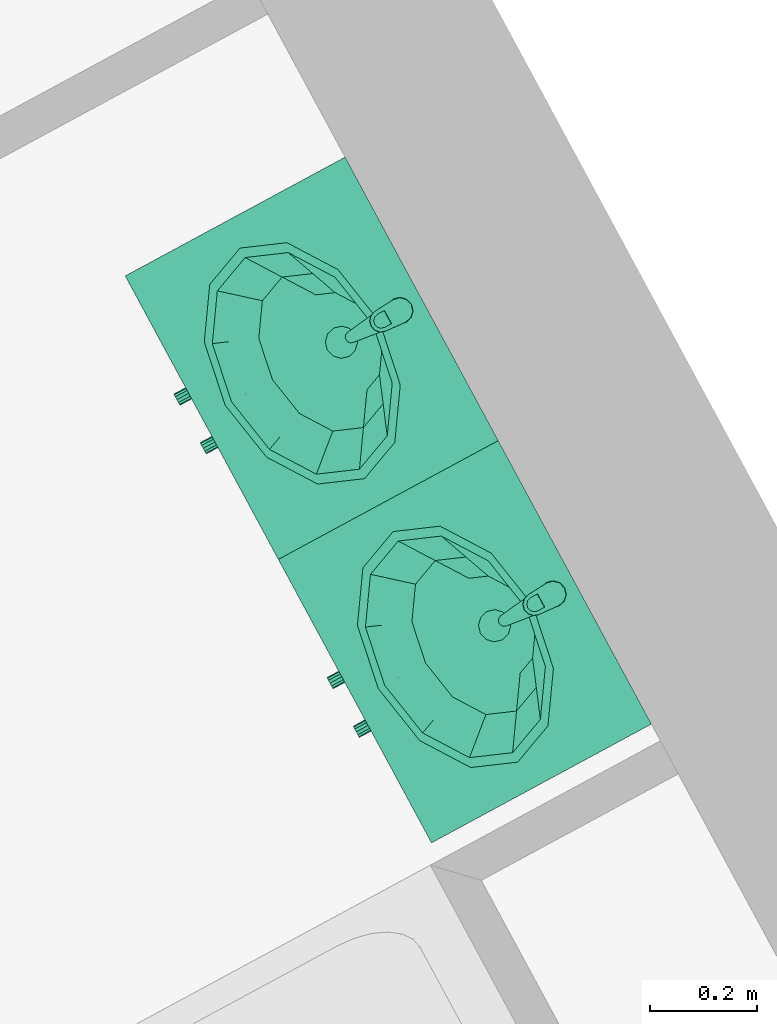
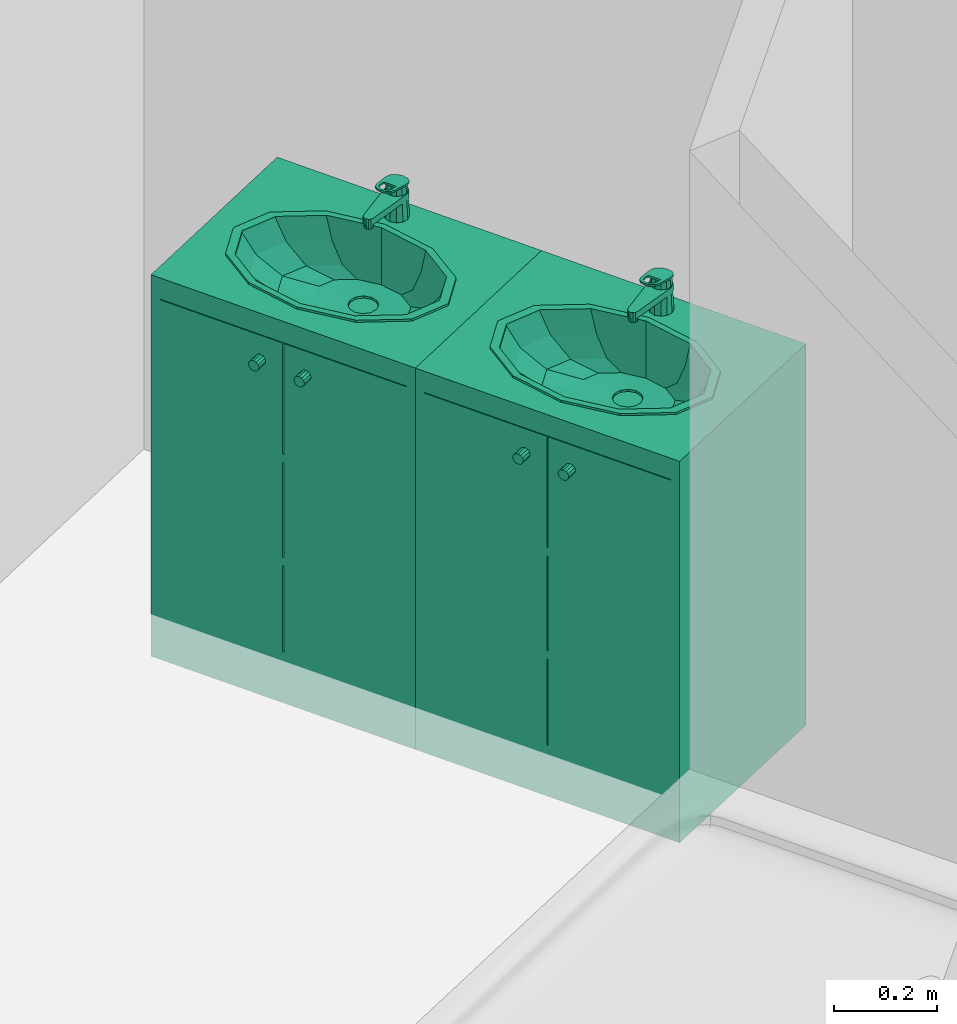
# One storey, part 92 of 121: 2 distribution elements.
"""IFC2X3 building model written with IfcOpenShell, lengths in metres."""

from ifc_helpers import new_model, entity, si_unit, converted_unit, derived_unit, money_unit, direction, frame, origin_with_axes, place, context, subcontext, project, spatial, open_shell, faceted_brep, surface_model, source, transform, mapped, type_object, element, save


model = new_model("IFC2X3")

# Units and contexts
model_context = context("Model", 3, precision=1e-05, world=origin_with_axes(), true_north=direction((0.0, 1.0)))
body_context = subcontext(model_context, "Body", "Model", "MODEL_VIEW")
ifc_project = project(units=[si_unit("LENGTHUNIT", "METRE"), si_unit("AREAUNIT", "SQUARE_METRE"), si_unit("VOLUMEUNIT", "CUBIC_METRE"), converted_unit("PLANEANGLEUNIT", "DEGREE", entity("IfcPlaneAngleMeasure", 0.0174532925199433), si_unit("PLANEANGLEUNIT", "RADIAN"), dimensions=[0, 0, 0, 0, 0, 0, 0]), money_unit("CHF"), converted_unit("TIMEUNIT", "Year", entity("IfcTimeMeasure", 31557600.0), si_unit("TIMEUNIT", "SECOND"), dimensions=[0, 0, 1, 0, 0, 0, 0]), si_unit("MASSUNIT", "GRAM", prefix="KILO"), si_unit("THERMODYNAMICTEMPERATUREUNIT", "DEGREE_CELSIUS"), si_unit("LUMINOUSINTENSITYUNIT", "LUMEN"), si_unit("ENERGYUNIT", "JOULE", prefix="MEGA"), derived_unit("THERMALCONDUCTANCEUNIT", [(si_unit("POWERUNIT", "WATT"), 1), (si_unit("LENGTHUNIT", "METRE"), -1), (si_unit("THERMODYNAMICTEMPERATUREUNIT", "KELVIN"), -1)]), derived_unit("SPECIFICHEATCAPACITYUNIT", [(si_unit("ENERGYUNIT", "JOULE"), 1), (si_unit("MASSUNIT", "GRAM", prefix="KILO"), -1), (si_unit("THERMODYNAMICTEMPERATUREUNIT", "KELVIN"), -1)]), derived_unit("MASSDENSITYUNIT", [(si_unit("MASSUNIT", "GRAM", prefix="KILO"), 1), (si_unit("VOLUMEUNIT", "CUBIC_METRE"), -1)])], contexts=[model_context])

# Site, building, storey
site_placement = place(None, origin_with_axes())
site = spatial("IfcSite", under=ifc_project, at=site_placement, Name="Site", CompositionType="ELEMENT")
building_placement = place(site_placement, origin_with_axes())
building = spatial("IfcBuilding", under=site, at=building_placement, Name="Bâtiment", CompositionType="ELEMENT")
storey_placement = place(building_placement, frame((0.0, 0.0, 2.75), z_axis=(0.0, 0.0, 1.0), x_axis=(1.0, 0.0, 0.0)))
storey = spatial("IfcBuildingStorey", under=building, at=storey_placement, Name="Etage 1", CompositionType="ELEMENT", Elevation=2.75)

# Distribution elements
distribution_element_type = type_object("IfcDistributionElementType", Name="Lavabo sur meuble 27")
shared_shape = source(origin_with_axes(), body_context, "Body", "SurfaceModel", [
    faceted_brep([(0.0, 0.0, 0.0), (0.6, 0.0, 0.0), (0.6, 0.0, 0.1), (0.0, 0.0, 0.1), (0.0, 0.4653441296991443, 0.0), (0.6, 0.4653441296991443, 0.0), (0.6, 0.4653441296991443, 0.1), (0.0, 0.4653441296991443, 0.1)], [[[0, 1, 2, 3]], [[0, 4, 5, 1]], [[1, 5, 6, 2]], [[3, 2, 6, 7]], [[4, 0, 3, 7]], [[5, 4, 7, 6]]]),
    faceted_brep([(0.0, 0.0, 0.1), (0.02, 0.0, 0.1), (0.02, 0.0, 0.12), (0.0, 0.0, 0.12), (0.0, 0.4653441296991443, 0.1), (0.02, 0.4653441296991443, 0.1), (0.58, 0.4653441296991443, 0.1), (0.6, 0.4653441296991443, 0.1), (0.6, 0.0, 0.1), (0.58, 0.0, 0.1), (0.58, 0.0, 0.12), (0.6, 0.0, 0.12), (0.6, 0.4653441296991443, 0.12), (0.58, 0.4653441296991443, 0.12), (0.02, 0.4653441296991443, 0.12), (0.0, 0.4653441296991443, 0.12)], [[[0, 1, 2, 3]], [[0, 4, 5, 6, 7, 8, 9, 1]], [[1, 9, 10, 2]], [[3, 2, 10, 11, 12, 13, 14, 15]], [[4, 0, 3, 15]], [[5, 4, 15, 14]], [[6, 5, 14, 13]], [[7, 6, 13, 12]], [[8, 7, 12, 11]], [[9, 8, 11, 10]]]),
    faceted_brep([(0.0, 0.0, 0.12), (0.02, 0.0, 0.12), (0.02, 0.0, 0.85), (0.0, 0.0, 0.85), (0.0, 0.4653441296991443, 0.12), (0.6, 0.4653441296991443, 0.12), (0.6, 0.0, 0.12), (0.58, 0.0, 0.12), (0.58, 0.4453441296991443, 0.12), (0.02, 0.4453441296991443, 0.12), (0.02, 0.4453441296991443, 0.85), (0.58, 0.4453441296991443, 0.85), (0.58, 0.0, 0.85), (0.6, 0.0, 0.85), (0.6, 0.4653441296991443, 0.85), (0.0, 0.4653441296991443, 0.85)], [[[0, 1, 2, 3]], [[0, 4, 5, 6, 7, 8, 9, 1]], [[1, 9, 10, 2]], [[3, 2, 10, 11, 12, 13, 14, 15]], [[4, 0, 3, 15]], [[5, 4, 15, 14]], [[6, 5, 14, 13]], [[7, 6, 13, 12]], [[8, 7, 12, 11]], [[9, 8, 11, 10]]]),
    faceted_brep([(0.58, 0.0, 0.3233333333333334), (0.58, 0.4453441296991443, 0.3233333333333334), (0.58, 0.4453441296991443, 0.3433333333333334), (0.58, 0.0, 0.3433333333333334), (0.02, 0.0, 0.3233333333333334), (0.02, 0.4453441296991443, 0.3233333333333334), (0.02, 0.4453441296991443, 0.3433333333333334), (0.02, 0.0, 0.3433333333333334)], [[[0, 1, 2, 3]], [[0, 4, 5, 1]], [[1, 5, 6, 2]], [[3, 2, 6, 7]], [[4, 0, 3, 7]], [[5, 4, 7, 6]]]),
    faceted_brep([(0.58, 0.0, 0.5666666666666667), (0.58, 0.4453441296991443, 0.5666666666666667), (0.58, 0.4453441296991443, 0.5866666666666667), (0.58, 0.0, 0.5866666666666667), (0.02, 0.0, 0.5666666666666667), (0.02, 0.4453441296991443, 0.5666666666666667), (0.02, 0.4453441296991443, 0.5866666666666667), (0.02, 0.0, 0.5866666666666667)], [[[0, 1, 2, 3]], [[0, 4, 5, 1]], [[1, 5, 6, 2]], [[3, 2, 6, 7]], [[4, 0, 3, 7]], [[5, 4, 7, 6]]]),
    faceted_brep([(0.0, 0.4653441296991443, 0.85), (0.6, 0.4653441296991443, 0.85), (0.6, 0.0, 0.85), (0.0, 0.0, 0.85), (0.4124999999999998, 0.08276825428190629, 0.85), (0.4948557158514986, 0.137672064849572, 0.85), (0.525, 0.2126720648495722, 0.85), (0.4948557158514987, 0.2876720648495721, 0.85), (0.4125, 0.3425758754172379, 0.85), (0.3, 0.3626720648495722, 0.85), (0.1875000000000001, 0.342575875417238, 0.85), (0.1051442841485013, 0.2876720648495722, 0.85), (0.07499999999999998, 0.2126720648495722, 0.85), (0.1051442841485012, 0.1376720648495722, 0.85), (0.1874999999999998, 0.08276825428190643, 0.85), (0.3, 0.06267206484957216, 0.85), (0.0, 0.4653441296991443, 0.9), (0.6, 0.4653441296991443, 0.9), (0.6, 0.0, 0.9), (0.0, 0.0, 0.9), (0.4124999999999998, 0.08276825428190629, 0.9), (0.4948557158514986, 0.137672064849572, 0.9), (0.525, 0.2126720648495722, 0.9), (0.4948557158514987, 0.2876720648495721, 0.9), (0.4125, 0.3425758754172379, 0.9), (0.3, 0.3626720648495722, 0.9), (0.1875000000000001, 0.342575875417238, 0.9), (0.1051442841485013, 0.2876720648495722, 0.9), (0.07499999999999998, 0.2126720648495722, 0.9), (0.1051442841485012, 0.1376720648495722, 0.9), (0.1874999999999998, 0.08276825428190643, 0.9), (0.3, 0.06267206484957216, 0.9)], [[[0, 1, 2, 3], [4, 5, 6, 7, 8, 9, 10, 11, 12, 13, 14, 15]], [[0, 16, 17, 1]], [[1, 17, 18, 2]], [[2, 18, 19, 3]], [[3, 19, 16, 0]], [[20, 21, 5, 4]], [[21, 22, 6, 5]], [[22, 23, 7, 6]], [[23, 24, 8, 7]], [[24, 25, 9, 8]], [[25, 26, 10, 9]], [[26, 27, 11, 10]], [[27, 28, 12, 11]], [[28, 29, 13, 12]], [[29, 30, 14, 13]], [[30, 31, 15, 14]], [[31, 20, 4, 15]], [[18, 17, 16, 19], [24, 23, 22, 21, 20, 31, 30, 29, 28, 27, 26, 25]]]),
    faceted_brep([(0.544, 0.2126720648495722, 0.905), (0.544, 0.2126720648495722, 0.9), (0.511310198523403, 0.2943684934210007, 0.9), (0.511310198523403, 0.2943684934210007, 0.905), (0.5113101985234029, 0.1309756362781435, 0.905), (0.5113101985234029, 0.1309756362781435, 0.9), (0.4219999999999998, 0.07116969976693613, 0.9), (0.3, 0.04927920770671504, 0.9), (0.1779999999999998, 0.07116969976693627, 0.9), (0.08868980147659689, 0.1309756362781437, 0.9), (0.05599999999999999, 0.2126720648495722, 0.9), (0.088689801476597, 0.2943684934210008, 0.9), (0.178, 0.3541744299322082, 0.9), (0.3, 0.3760649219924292, 0.9), (0.422, 0.3541744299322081, 0.9), (0.524, 0.2126720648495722, 0.9), (0.4939896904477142, 0.2876720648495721, 0.9), (0.412, 0.3425758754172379, 0.9), (0.3, 0.3626720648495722, 0.9), (0.1880000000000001, 0.342575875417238, 0.9), (0.1060103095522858, 0.2876720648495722, 0.9), (0.07599999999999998, 0.2126720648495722, 0.9), (0.1060103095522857, 0.1376720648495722, 0.9), (0.1879999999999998, 0.08276825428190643, 0.9), (0.3, 0.06267206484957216, 0.9), (0.4119999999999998, 0.08276825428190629, 0.9), (0.4939896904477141, 0.137672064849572, 0.9), (0.422, 0.3541744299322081, 0.905), (0.3, 0.3760649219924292, 0.905), (0.178, 0.3541744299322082, 0.905), (0.088689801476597, 0.2943684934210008, 0.905), (0.05599999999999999, 0.2126720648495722, 0.905), (0.08868980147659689, 0.1309756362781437, 0.905), (0.1779999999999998, 0.07116969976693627, 0.905), (0.3, 0.04927920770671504, 0.905), (0.4219999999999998, 0.07116969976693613, 0.905), (0.524, 0.2126720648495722, 0.905), (0.4939896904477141, 0.137672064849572, 0.905), (0.4119999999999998, 0.08276825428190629, 0.905), (0.3, 0.06267206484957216, 0.905), (0.1879999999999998, 0.08276825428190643, 0.905), (0.1060103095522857, 0.1376720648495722, 0.905), (0.07599999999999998, 0.2126720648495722, 0.905), (0.1060103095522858, 0.2876720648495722, 0.905), (0.1880000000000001, 0.342575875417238, 0.905), (0.3, 0.3626720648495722, 0.905), (0.412, 0.3425758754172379, 0.905), (0.4939896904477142, 0.2876720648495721, 0.905)], [[[0, 1, 2, 3]], [[4, 5, 1, 0]], [[1, 5, 6, 7, 8, 9, 10, 11, 12, 13, 14, 2], [15, 16, 17, 18, 19, 20, 21, 22, 23, 24, 25, 26]], [[3, 2, 14, 27]], [[0, 3, 27, 28, 29, 30, 31, 32, 33, 34, 35, 4], [36, 37, 38, 39, 40, 41, 42, 43, 44, 45, 46, 47]], [[35, 6, 5, 4]], [[34, 7, 6, 35]], [[33, 8, 7, 34]], [[32, 9, 8, 33]], [[31, 10, 9, 32]], [[30, 11, 10, 31]], [[29, 12, 11, 30]], [[28, 13, 12, 29]], [[27, 14, 13, 28]], [[47, 16, 15, 36]], [[46, 17, 16, 47]], [[45, 18, 17, 46]], [[44, 19, 18, 45]], [[43, 20, 19, 44]], [[42, 21, 20, 43]], [[41, 22, 21, 42]], [[40, 23, 22, 41]], [[39, 24, 23, 40]], [[38, 25, 24, 39]], [[37, 26, 25, 38]], [[36, 15, 26, 37]]]),
    surface_model("IfcShellBasedSurfaceModel", [(0.3, 0.3626720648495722, 0.9), (0.3, 0.3626720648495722, 0.848), (0.4008, 0.3445854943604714, 0.848), (0.412, 0.342575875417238, 0.9), (0.1879999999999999, 0.3425758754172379, 0.9), (0.1991999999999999, 0.3445854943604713, 0.848), (0.4745907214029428, 0.2951720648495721, 0.848), (0.4939896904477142, 0.2876720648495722, 0.9), (0.1060103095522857, 0.2876720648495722, 0.9), (0.1254092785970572, 0.2951720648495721, 0.848), (0.5016, 0.2276720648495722, 0.848), (0.524, 0.2126720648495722, 0.9), (0.07599999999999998, 0.2126720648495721, 0.9), (0.09839999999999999, 0.2276720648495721, 0.848), (0.4745907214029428, 0.1601720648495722, 0.848), (0.4939896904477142, 0.1376720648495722, 0.9), (0.1060103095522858, 0.1376720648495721, 0.9), (0.1254092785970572, 0.1601720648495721, 0.848), (0.4008, 0.1107586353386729, 0.848), (0.412, 0.08276825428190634, 0.9), (0.1879999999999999, 0.08276825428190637, 0.9), (0.1992, 0.110758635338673, 0.848), (0.3, 0.09267206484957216, 0.848), (0.3, 0.06267206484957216, 0.9)], [open_shell([[[0, 1, 2, 3]], [[4, 5, 1, 0]], [[3, 2, 6, 7]], [[8, 9, 5, 4]], [[7, 6, 10, 11]], [[12, 13, 9, 8]], [[11, 10, 14, 15]], [[16, 17, 13, 12]], [[15, 14, 18, 19]], [[20, 21, 17, 16]], [[19, 18, 22, 23]], [[23, 22, 21, 20]]])]),
    surface_model("IfcShellBasedSurfaceModel", [(0.3, 0.3626720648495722, 0.848), (0.3, 0.3626720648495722, 0.7959999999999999), (0.379632, 0.3483836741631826, 0.7959999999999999), (0.4008, 0.3445854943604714, 0.848), (0.1991999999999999, 0.3445854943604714, 0.848), (0.2203679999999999, 0.3483836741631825, 0.7959999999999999), (0.4379266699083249, 0.3093470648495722, 0.7959999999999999), (0.4745907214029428, 0.2951720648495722, 0.848), (0.1254092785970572, 0.2951720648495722, 0.848), (0.1620733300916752, 0.3093470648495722, 0.7959999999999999), (0.459264, 0.2560220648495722, 0.7959999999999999), (0.5016, 0.2276720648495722, 0.848), (0.09839999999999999, 0.2276720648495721, 0.848), (0.140736, 0.2560220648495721, 0.7959999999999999), (0.4379266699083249, 0.2026970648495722, 0.7959999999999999), (0.4745907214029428, 0.1601720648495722, 0.848), (0.1254092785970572, 0.1601720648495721, 0.848), (0.1620733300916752, 0.2026970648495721, 0.7959999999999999), (0.379632, 0.1636604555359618, 0.7959999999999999), (0.4008, 0.1107586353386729, 0.848), (0.1992, 0.110758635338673, 0.848), (0.220368, 0.1636604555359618, 0.7959999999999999), (0.3, 0.1493720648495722, 0.7959999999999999), (0.3, 0.09267206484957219, 0.848)], [open_shell([[[0, 1, 2, 3]], [[4, 5, 1, 0]], [[3, 2, 6, 7]], [[8, 9, 5, 4]], [[7, 6, 10, 11]], [[12, 13, 9, 8]], [[11, 10, 14, 15]], [[16, 17, 13, 12]], [[15, 14, 18, 19]], [[20, 21, 17, 16]], [[19, 18, 22, 23]], [[23, 22, 21, 20]]])]),
    surface_model("IfcShellBasedSurfaceModel", [(0.3, 0.3626720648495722, 0.7959999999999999), (0.3, 0.3626720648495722, 0.7699999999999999), (0.35016816, 0.3536703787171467, 0.7699999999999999), (0.379632, 0.3483836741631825, 0.7959999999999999), (0.2203679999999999, 0.3483836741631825, 0.7959999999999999), (0.2498318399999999, 0.3536703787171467, 0.7699999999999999), (0.3868938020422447, 0.3290773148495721, 0.7699999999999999), (0.4379266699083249, 0.3093470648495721, 0.7959999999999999), (0.1620733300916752, 0.3093470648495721, 0.7959999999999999), (0.2131061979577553, 0.3290773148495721, 0.7699999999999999), (0.40033632, 0.2954825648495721, 0.7699999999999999), (0.459264, 0.2560220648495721, 0.7959999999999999), (0.140736, 0.2560220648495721, 0.7959999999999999), (0.19966368, 0.2954825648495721, 0.7699999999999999), (0.3868938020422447, 0.2618878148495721, 0.7699999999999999), (0.4379266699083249, 0.2026970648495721, 0.7959999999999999), (0.1620733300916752, 0.2026970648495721, 0.7959999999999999), (0.2131061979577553, 0.2618878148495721, 0.7699999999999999), (0.35016816, 0.2372947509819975, 0.7699999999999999), (0.379632, 0.1636604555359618, 0.7959999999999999), (0.220368, 0.1636604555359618, 0.7959999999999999), (0.24983184, 0.2372947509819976, 0.7699999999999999), (0.3, 0.2282930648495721, 0.7699999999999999), (0.3, 0.1493720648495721, 0.7959999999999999)], [open_shell([[[0, 1, 2, 3]], [[4, 5, 1, 0]], [[3, 2, 6, 7]], [[8, 9, 5, 4]], [[7, 6, 10, 11]], [[12, 13, 9, 8]], [[11, 10, 14, 15]], [[16, 17, 13, 12]], [[15, 14, 18, 19]], [[20, 21, 17, 16]], [[19, 18, 22, 23]], [[23, 22, 21, 20]]])]),
    surface_model("IfcShellBasedSurfaceModel", [(0.3, 0.3626720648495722, 0.7699999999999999), (0.315, 0.3214633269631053, 0.7629999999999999), (0.35016816, 0.3536703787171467, 0.7699999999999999), (0.3, 0.3254825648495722, 0.7629999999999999), (0.3259807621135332, 0.3104825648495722, 0.7629999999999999), (0.2498318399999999, 0.3536703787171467, 0.7699999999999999), (0.3868938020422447, 0.3290773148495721, 0.7699999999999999), (0.285, 0.3214633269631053, 0.7629999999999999), (0.33, 0.2954825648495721, 0.7629999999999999), (0.2131061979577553, 0.3290773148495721, 0.7699999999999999), (0.40033632, 0.2954825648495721, 0.7699999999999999), (0.2740192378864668, 0.3104825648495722, 0.7629999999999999), (0.3259807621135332, 0.2804825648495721, 0.7629999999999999), (0.19966368, 0.2954825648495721, 0.7699999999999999), (0.3868938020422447, 0.2618878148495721, 0.7699999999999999), (0.27, 0.2954825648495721, 0.7629999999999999), (0.315, 0.269501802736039, 0.7629999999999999), (0.2131061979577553, 0.2618878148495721, 0.7699999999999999), (0.35016816, 0.2372947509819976, 0.7699999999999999), (0.2740192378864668, 0.2804825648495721, 0.7629999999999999), (0.3, 0.2654825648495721, 0.7629999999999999), (0.24983184, 0.2372947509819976, 0.7699999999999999), (0.3, 0.2282930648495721, 0.7699999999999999), (0.285, 0.269501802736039, 0.7629999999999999)], [open_shell([[[0, 1, 2]], [[0, 3, 1]], [[2, 1, 4]], [[5, 3, 0]], [[2, 4, 6]], [[5, 7, 3]], [[6, 4, 8]], [[9, 7, 5]], [[6, 8, 10]], [[9, 11, 7]], [[10, 8, 12]], [[13, 11, 9]], [[10, 12, 14]], [[13, 15, 11]], [[14, 12, 16]], [[17, 15, 13]], [[14, 16, 18]], [[17, 19, 15]], [[18, 16, 20]], [[21, 19, 17]], [[18, 20, 22]], [[21, 23, 19]], [[22, 20, 23]], [[22, 23, 21]]])]),
    surface_model("IfcShellBasedSurfaceModel", [(0.33, 0.2954825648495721, 0.763), (0.33, 0.2954825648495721, 0.758), (0.3259807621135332, 0.3104825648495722, 0.758), (0.3259807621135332, 0.3104825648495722, 0.763), (0.3259807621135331, 0.2804825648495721, 0.763), (0.3259807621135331, 0.2804825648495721, 0.758), (0.3149999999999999, 0.269501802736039, 0.758), (0.3, 0.2654825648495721, 0.758), (0.285, 0.269501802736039, 0.758), (0.2740192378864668, 0.2804825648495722, 0.758), (0.27, 0.2954825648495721, 0.758), (0.2740192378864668, 0.3104825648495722, 0.758), (0.285, 0.3214633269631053, 0.758), (0.3, 0.3254825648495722, 0.758), (0.315, 0.3214633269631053, 0.758), (0.315, 0.3214633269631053, 0.763), (0.3149999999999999, 0.269501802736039, 0.763), (0.3, 0.2654825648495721, 0.763), (0.285, 0.269501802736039, 0.763), (0.2740192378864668, 0.2804825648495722, 0.763), (0.27, 0.2954825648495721, 0.763), (0.2740192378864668, 0.3104825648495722, 0.763), (0.285, 0.3214633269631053, 0.763), (0.3, 0.3254825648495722, 0.763)], [open_shell([[[0, 1, 2, 3]], [[4, 5, 1, 0]], [[1, 5, 6, 7, 8, 9, 10, 11, 12, 13, 14, 2]], [[3, 2, 14, 15]], [[16, 6, 5, 4]], [[17, 7, 6, 16]], [[18, 8, 7, 17]], [[19, 9, 8, 18]], [[20, 10, 9, 19]], [[21, 11, 10, 20]], [[22, 12, 11, 21]], [[23, 13, 12, 22]], [[15, 14, 13, 23]]])]),
    faceted_brep([(0.3125, 0.4406587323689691, 0.9), (0.3, 0.4440080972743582, 0.9), (0.3, 0.4402100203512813, 0.9759615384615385), (0.310587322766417, 0.4373458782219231, 0.976507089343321), (0.3216506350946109, 0.4315080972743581, 0.9), (0.325, 0.4190080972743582, 0.9), (0.3216506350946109, 0.4065080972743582, 0.9), (0.3125, 0.3973574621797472, 0.9), (0.3, 0.3940080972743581, 0.9), (0.2875, 0.3973574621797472, 0.9), (0.278349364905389, 0.4065080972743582, 0.9), (0.275, 0.4190080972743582, 0.9), (0.278349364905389, 0.4315080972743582, 0.9), (0.2875, 0.4406587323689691, 0.9), (0.289412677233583, 0.4373458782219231, 0.976507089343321), (0.2817264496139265, 0.4295583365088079, 0.9779904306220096), (0.279, 0.4190080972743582, 0.98), (0.2818996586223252, 0.4085578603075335, 0.9819905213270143), (0.2895858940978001, 0.400970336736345, 0.9834357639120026), (0.3, 0.3982062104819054, 0.9839622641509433), (0.3104141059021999, 0.400970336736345, 0.9834357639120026), (0.3181003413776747, 0.4085578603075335, 0.9819905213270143), (0.321, 0.4190080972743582, 0.98), (0.3182735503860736, 0.4295583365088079, 0.9779904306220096)], [[[0, 1, 2, 3]], [[0, 4, 5, 6, 7, 8, 9, 10, 11, 12, 13, 1]], [[1, 13, 14, 2]], [[3, 2, 14, 15, 16, 17, 18, 19, 20, 21, 22, 23]], [[4, 0, 3, 23]], [[5, 4, 23, 22]], [[6, 5, 22, 21]], [[7, 6, 21, 20]], [[8, 7, 20, 19]], [[9, 8, 19, 18]], [[10, 9, 18, 17]], [[11, 10, 17, 16]], [[12, 11, 16, 15]], [[13, 12, 15, 14]]]),
    faceted_brep([(0.309, 0.3160080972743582, 0.935), (0.3077942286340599, 0.3205080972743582, 0.935), (0.3077942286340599, 0.3205080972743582, 0.9450000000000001), (0.309, 0.3160080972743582, 0.9450000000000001), (0.3077942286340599, 0.3115080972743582, 0.935), (0.3045, 0.3082138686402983, 0.935), (0.3, 0.3070080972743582, 0.935), (0.2955, 0.3082138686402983, 0.935), (0.2922057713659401, 0.3115080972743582, 0.935), (0.291, 0.3160080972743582, 0.935), (0.2922057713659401, 0.3205080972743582, 0.935), (0.2955, 0.3238023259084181, 0.935), (0.3, 0.3250080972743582, 0.935), (0.3045, 0.3238023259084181, 0.935), (0.3045, 0.3238023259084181, 0.9450000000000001), (0.3, 0.3250080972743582, 0.9450000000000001), (0.2955, 0.3238023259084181, 0.9450000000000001), (0.2922057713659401, 0.3205080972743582, 0.9450000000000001), (0.291, 0.3160080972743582, 0.9450000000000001), (0.2922057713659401, 0.3115080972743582, 0.9450000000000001), (0.2955, 0.3082138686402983, 0.9450000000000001), (0.3, 0.3070080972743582, 0.9450000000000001), (0.3045, 0.3082138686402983, 0.9450000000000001), (0.3077942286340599, 0.3115080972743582, 0.9450000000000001)], [[[0, 1, 2, 3]], [[0, 4, 5, 6, 7, 8, 9, 10, 11, 12, 13, 1]], [[1, 13, 14, 2]], [[3, 2, 14, 15, 16, 17, 18, 19, 20, 21, 22, 23]], [[4, 0, 3, 23]], [[5, 4, 23, 22]], [[6, 5, 22, 21]], [[7, 6, 21, 20]], [[8, 7, 20, 19]], [[9, 8, 19, 18]], [[10, 9, 18, 17]], [[11, 10, 17, 16]], [[12, 11, 16, 15]], [[13, 12, 15, 14]]]),
    faceted_brep([(0.2871282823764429, 0.439264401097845, 0.9600000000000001), (0.2782721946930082, 0.4292013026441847, 0.9600000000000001), (0.2761946, 0.4159581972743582, 0.9600000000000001), (0.2890880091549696, 0.3146197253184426, 0.9600000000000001), (0.2909711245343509, 0.3097249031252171, 0.9600000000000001), (0.2949066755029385, 0.3062583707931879, 0.9600000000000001), (0.300000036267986, 0.305008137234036, 0.9600000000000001), (0.3050933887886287, 0.3062584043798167, 0.9600000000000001), (0.309028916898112, 0.3097249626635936, 0.9600000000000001), (0.310912, 0.3146197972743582, 0.9600000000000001), (0.3238053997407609, 0.4159581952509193, 0.9600000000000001), (0.3217278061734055, 0.4292013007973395, 0.9600000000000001), (0.3128717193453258, 0.4392644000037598, 0.9600000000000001), (0.300000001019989, 0.44300807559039, 0.9600000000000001), (0.311, 0.4380606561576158, 0.9600000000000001), (0.3190525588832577, 0.4300080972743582, 0.9600000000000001), (0.322, 0.4190080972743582, 0.9600000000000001), (0.3190525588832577, 0.4080080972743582, 0.9600000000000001), (0.3109999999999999, 0.3999555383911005, 0.9600000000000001), (0.3, 0.3970080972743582, 0.9600000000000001), (0.289, 0.3999555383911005, 0.9600000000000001), (0.2809474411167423, 0.4080080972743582, 0.9600000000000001), (0.278, 0.4190080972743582, 0.9600000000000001), (0.2809474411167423, 0.4300080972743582, 0.9600000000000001), (0.289, 0.4380606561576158, 0.9600000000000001), (0.3, 0.4410080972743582, 0.9600000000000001), (0.2782721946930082, 0.4292013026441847, 0.9450000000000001), (0.2871282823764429, 0.439264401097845, 0.9450000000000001), (0.2761946, 0.4159581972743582, 0.9450000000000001), (0.2890880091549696, 0.3146197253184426, 0.9450000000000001), (0.2909711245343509, 0.3097249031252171, 0.9450000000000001), (0.2949066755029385, 0.3062583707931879, 0.9450000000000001), (0.300000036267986, 0.305008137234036, 0.9450000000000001), (0.3050933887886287, 0.3062584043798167, 0.9450000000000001), (0.309028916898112, 0.3097249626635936, 0.9450000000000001), (0.310912, 0.3146197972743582, 0.9450000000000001), (0.3238053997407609, 0.4159581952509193, 0.9450000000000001), (0.3217278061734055, 0.4292013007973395, 0.9450000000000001), (0.3128717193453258, 0.4392644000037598, 0.9450000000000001), (0.300000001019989, 0.44300807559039, 0.9450000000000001), (0.311375, 0.4387101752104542, 0.9450000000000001), (0.319702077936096, 0.4303830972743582, 0.9450000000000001), (0.32275, 0.4190080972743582, 0.9450000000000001), (0.319702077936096, 0.4076330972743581, 0.9450000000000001), (0.311375, 0.3993060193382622, 0.9450000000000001), (0.3, 0.3962580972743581, 0.9450000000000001), (0.288625, 0.3993060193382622, 0.9450000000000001), (0.280297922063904, 0.4076330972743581, 0.9450000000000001), (0.2772499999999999, 0.4190080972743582, 0.9450000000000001), (0.280297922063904, 0.4303830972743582, 0.9450000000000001), (0.288625, 0.4387101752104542, 0.9450000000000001), (0.3, 0.4417580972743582, 0.9450000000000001)], [[[0, 1, 2, 3, 4, 5, 6, 7, 8, 9, 10, 11, 12, 13], [14, 15, 16, 17, 18, 19, 20, 21, 22, 23, 24, 25]], [[26, 1, 0, 27]], [[28, 2, 1, 26]], [[29, 3, 2, 28]], [[30, 4, 3, 29]], [[31, 5, 4, 30]], [[32, 6, 5, 31]], [[33, 7, 6, 32]], [[34, 8, 7, 33]], [[35, 9, 8, 34]], [[36, 10, 9, 35]], [[37, 11, 10, 36]], [[38, 12, 11, 37]], [[39, 13, 12, 38]], [[27, 0, 13, 39]], [[40, 41, 15, 14]], [[41, 42, 16, 15]], [[42, 43, 17, 16]], [[43, 44, 18, 17]], [[44, 45, 19, 18]], [[20, 19, 45, 46]], [[21, 20, 46, 47]], [[22, 21, 47, 48]], [[23, 22, 48, 49]], [[24, 23, 49, 50]], [[50, 51, 25, 24]], [[51, 40, 14, 25]], [[32, 31, 30, 29, 28, 26, 27, 39, 38, 37, 36, 35, 34, 33], [44, 43, 42, 41, 40, 51, 50, 49, 48, 47, 46, 45]]]),
    faceted_brep([(0.323893, 0.4173155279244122, 0.9803223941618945), (0.3212964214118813, 0.4297828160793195, 0.9779476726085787), (0.3212964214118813, 0.4305312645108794, 0.9818770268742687), (0.323893, 0.4180639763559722, 0.9842517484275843), (0.3209459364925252, 0.377171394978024, 0.9879688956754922), (0.317663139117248, 0.3674937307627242, 0.9898122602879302), (0.3100614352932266, 0.3605443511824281, 0.9911359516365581), (0.2999995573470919, 0.3580224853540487, 0.9916163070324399), (0.289937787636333, 0.3605447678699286, 0.9911358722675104), (0.2823363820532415, 0.3674944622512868, 0.9898121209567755), (0.279054, 0.3771722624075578, 0.9879687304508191), (0.2761069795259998, 0.4173158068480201, 0.9803223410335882), (0.2787037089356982, 0.4297830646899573, 0.9779476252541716), (0.2875283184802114, 0.4390992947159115, 0.976173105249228), (0.3000001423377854, 0.4425400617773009, 0.9755177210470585), (0.3124719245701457, 0.4390991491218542, 0.9761731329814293), (0.314, 0.3934672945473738, 0.9848649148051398), (0.286, 0.3934672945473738, 0.9848649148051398), (0.286, 0.37865166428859, 0.9876869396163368), (0.2878756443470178, 0.3717752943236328, 0.9889967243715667), (0.293, 0.3667414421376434, 0.9899555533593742), (0.3, 0.3648989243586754, 0.9903065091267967), (0.307, 0.3667414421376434, 0.9899555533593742), (0.3121243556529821, 0.3717752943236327, 0.9889967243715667), (0.314, 0.37865166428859, 0.9876869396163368), (0.3124719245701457, 0.4398475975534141, 0.9801024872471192), (0.3000001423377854, 0.4432885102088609, 0.9794470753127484), (0.2875283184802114, 0.4398477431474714, 0.9801024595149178), (0.2787037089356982, 0.4305315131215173, 0.9818769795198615), (0.2761069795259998, 0.4180642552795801, 0.9842516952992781), (0.279054, 0.3779207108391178, 0.991898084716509), (0.2823363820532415, 0.3682429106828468, 0.9937414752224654), (0.289937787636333, 0.3612932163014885, 0.9950652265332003), (0.2999995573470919, 0.3587709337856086, 0.9955456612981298), (0.3100614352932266, 0.3612927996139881, 0.995065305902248), (0.317663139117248, 0.3682421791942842, 0.9937416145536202), (0.3209459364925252, 0.377919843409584, 0.9918982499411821), (0.314, 0.3942157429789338, 0.9887942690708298), (0.314, 0.3794001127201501, 0.9916162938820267), (0.3121243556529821, 0.3725237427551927, 0.9929260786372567), (0.307, 0.3674898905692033, 0.9938849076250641), (0.3, 0.3656473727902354, 0.9942358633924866), (0.293, 0.3674898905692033, 0.9938849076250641), (0.2878756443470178, 0.3725237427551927, 0.9929260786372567), (0.286, 0.3794001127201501, 0.9916162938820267), (0.286, 0.3942157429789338, 0.9887942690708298)], [[[0, 1, 2, 3]], [[0, 4, 5, 6, 7, 8, 9, 10, 11, 12, 13, 14, 15, 1], [16, 17, 18, 19, 20, 21, 22, 23, 24]], [[1, 15, 25, 2]], [[3, 2, 25, 26, 27, 28, 29, 30, 31, 32, 33, 34, 35, 36], [37, 38, 39, 40, 41, 42, 43, 44, 45]], [[4, 0, 3, 36]], [[5, 4, 36, 35]], [[6, 5, 35, 34]], [[7, 6, 34, 33]], [[8, 7, 33, 32]], [[9, 8, 32, 31]], [[10, 9, 31, 30]], [[11, 10, 30, 29]], [[12, 11, 29, 28]], [[13, 12, 28, 27]], [[14, 13, 27, 26]], [[15, 14, 26, 25]], [[17, 16, 37, 45]], [[18, 17, 45, 44]], [[19, 18, 44, 43]], [[20, 19, 43, 42]], [[21, 20, 42, 41]], [[22, 21, 41, 40]], [[23, 22, 40, 39]], [[24, 23, 39, 38]], [[16, 24, 38, 37]]]),
    surface_model("IfcShellBasedSurfaceModel", [(0.001500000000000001, 0.0, 0.1015), (0.001500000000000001, 0.0, 0.8485), (0.2985, 0.0, 0.8485), (0.2985, 0.0, 0.1015)], [open_shell([[[0, 1, 2, 3]]])]),
    faceted_brep([(0.2588923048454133, 0.0, 0.7855), (0.2545, 0.0, 0.7811076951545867), (0.2485, 0.0, 0.7795), (0.2425, 0.0, 0.7811076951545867), (0.2381076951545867, 0.0, 0.7855), (0.2365, 0.0, 0.7915), (0.2381076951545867, 0.0, 0.7975), (0.2425, 0.0, 0.8018923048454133), (0.2485, 0.0, 0.8035), (0.2545, 0.0, 0.8018923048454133), (0.2588923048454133, 0.0, 0.7975), (0.2605, 0.0, 0.7915), (0.2588923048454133, -0.025, 0.7855), (0.2545, -0.025, 0.7811076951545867), (0.2485, -0.025, 0.7795), (0.2425, -0.025, 0.7811076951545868), (0.2381076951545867, -0.025, 0.7855), (0.2365, -0.025, 0.7915), (0.2381076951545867, -0.025, 0.7975), (0.2425, -0.025, 0.8018923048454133), (0.2485, -0.025, 0.8035), (0.2545, -0.025, 0.8018923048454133), (0.2588923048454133, -0.025, 0.7975), (0.2605, -0.025, 0.7915)], [[[0, 1, 2, 3, 4, 5, 6, 7, 8, 9, 10, 11]], [[1, 0, 12, 13]], [[2, 1, 13, 14]], [[3, 2, 14, 15]], [[4, 3, 15, 16]], [[5, 4, 16, 17]], [[6, 5, 17, 18]], [[7, 6, 18, 19]], [[8, 7, 19, 20]], [[9, 8, 20, 21]], [[10, 9, 21, 22]], [[11, 10, 22, 23]], [[0, 11, 23, 12]], [[12, 23, 22, 21, 20, 19, 18, 17, 16, 15, 14, 13]]]),
    surface_model("IfcShellBasedSurfaceModel", [(0.5985, 0.0, 0.1015), (0.3015000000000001, 0.0, 0.1015), (0.3015000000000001, 0.0, 0.8485), (0.5985, 0.0, 0.8485)], [open_shell([[[0, 1, 2, 3]]])]),
    faceted_brep([(0.3411076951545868, 0.0, 0.7855), (0.3395, 0.0, 0.7915), (0.3411076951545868, 0.0, 0.7975), (0.3455, 0.0, 0.8018923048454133), (0.3515, 0.0, 0.8035), (0.3575, 0.0, 0.8018923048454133), (0.3618923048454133, 0.0, 0.7975), (0.3635, 0.0, 0.7915), (0.3618923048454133, 0.0, 0.7855), (0.3575, 0.0, 0.7811076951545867), (0.3515, 0.0, 0.7795), (0.3455, 0.0, 0.7811076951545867), (0.3411076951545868, -0.025, 0.7855), (0.3395, -0.025, 0.7915), (0.3411076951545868, -0.025, 0.7975), (0.3455, -0.025, 0.8018923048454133), (0.3515, -0.025, 0.8035), (0.3575, -0.025, 0.8018923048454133), (0.3618923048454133, -0.025, 0.7975), (0.3635, -0.025, 0.7915), (0.3618923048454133, -0.025, 0.7855), (0.3575, -0.025, 0.7811076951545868), (0.3515, -0.025, 0.7795), (0.3455, -0.025, 0.7811076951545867)], [[[0, 1, 2, 3, 4, 5, 6, 7, 8, 9, 10, 11]], [[0, 12, 13, 1]], [[1, 13, 14, 2]], [[2, 14, 15, 3]], [[3, 15, 16, 4]], [[4, 16, 17, 5]], [[5, 17, 18, 6]], [[6, 18, 19, 7]], [[7, 19, 20, 8]], [[8, 20, 21, 9]], [[9, 21, 22, 10]], [[10, 22, 23, 11]], [[11, 23, 12, 0]], [[12, 23, 22, 21, 20, 19, 18, 17, 16, 15, 14, 13]]]),
])
for number, where, z_axis, x_axis, name in (
    (1, (9562.277073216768, -1027.622111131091, 57.59999999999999), (0.0, 0.0, 1.0), (0.4753186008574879, -0.8798137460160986, 0.0), "Obj.-004"),
    (2, (9562.562264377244, -1028.149999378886, 57.59999999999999), (0.0, 0.0, 1.0), (0.4753186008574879, -0.8798137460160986, 0.0), "Obj.-004"),
):
    element("IfcDistributionElement", number, at=place(storey_placement, frame(where, z_axis=z_axis, x_axis=x_axis)), inside=storey, type_object=distribution_element_type, Name=name, context=body_context, shape_type="MappedRepresentation", body=[
        mapped(shared_shape, transform((0.0, 0.0, 0.0))),
    ])

save(model, "model.ifc")
